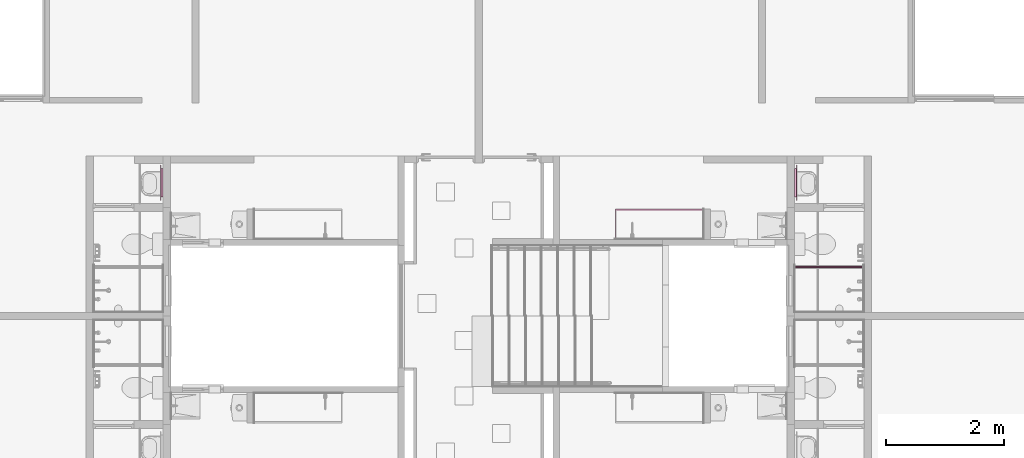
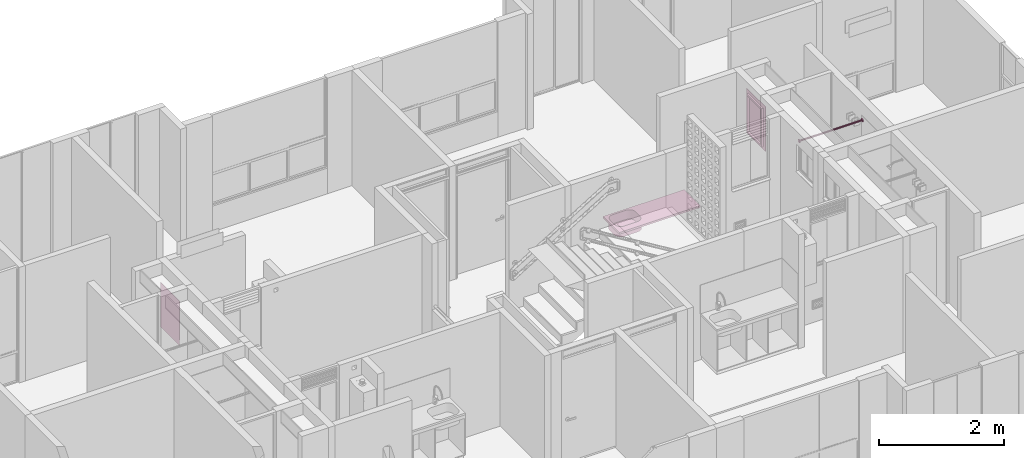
# One storey, part 44 of 48: 4 furniture elements.
"""IFC4 building model written with IfcOpenShell, lengths in metres."""

from ifc_helpers import new_model, entity, si_unit, converted_unit, derived_unit, direction, frame, origin, place, context, subcontext, project, spatial, arc, indexed_curve, outline, extrude, polygons, source, transform, mapped, material, constituent, constituent_set, type_object, type_shapes, element, save


model = new_model("IFC4")

# Units and contexts
model_context = context("Model", 3, precision=1e-05, world=origin(), true_north=direction((6.123031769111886e-17, 1.0)))
body_context = subcontext(model_context, "Body", "Model", "MODEL_VIEW")
ifc_project = project(units=[si_unit("LENGTHUNIT", "METRE"), si_unit("AREAUNIT", "SQUARE_METRE"), si_unit("VOLUMEUNIT", "CUBIC_METRE"), converted_unit("PLANEANGLEUNIT", "DEGREE", entity("IfcRatioMeasure", 0.017453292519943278), si_unit("PLANEANGLEUNIT", "RADIAN"), dimensions=[0, 0, 0, 0, 0, 0, 0]), si_unit("MASSUNIT", "GRAM", prefix="KILO"), derived_unit("MASSDENSITYUNIT", [(si_unit("MASSUNIT", "GRAM", prefix="KILO"), 1), (si_unit("LENGTHUNIT", "METRE"), -3)]), derived_unit("IONCONCENTRATIONUNIT", [(si_unit("MASSUNIT", "GRAM", prefix="KILO"), 1), (si_unit("LENGTHUNIT", "METRE"), -3)]), derived_unit("MOMENTOFINERTIAUNIT", [(si_unit("LENGTHUNIT", "METRE"), 4)]), si_unit("TIMEUNIT", "SECOND"), si_unit("FREQUENCYUNIT", "HERTZ"), si_unit("THERMODYNAMICTEMPERATUREUNIT", "DEGREE_CELSIUS"), derived_unit("THERMALTRANSMITTANCEUNIT", [(si_unit("MASSUNIT", "GRAM", prefix="KILO"), 1), (si_unit("THERMODYNAMICTEMPERATUREUNIT", "KELVIN"), -1), (si_unit("TIMEUNIT", "SECOND"), -3)]), derived_unit("THERMALCONDUCTANCEUNIT", [(si_unit("MASSUNIT", "GRAM", prefix="KILO"), 1), (si_unit("THERMODYNAMICTEMPERATUREUNIT", "KELVIN"), -1), (si_unit("TIMEUNIT", "SECOND"), -3), (si_unit("LENGTHUNIT", "METRE"), 1)]), derived_unit("VOLUMETRICFLOWRATEUNIT", [(si_unit("LENGTHUNIT", "METRE"), 3), (si_unit("TIMEUNIT", "SECOND"), -1)]), derived_unit("MASSFLOWRATEUNIT", [(si_unit("MASSUNIT", "GRAM", prefix="KILO"), 1), (si_unit("TIMEUNIT", "SECOND"), -1)]), derived_unit("ROTATIONALFREQUENCYUNIT", [(si_unit("TIMEUNIT", "SECOND"), -1)]), si_unit("ELECTRICCURRENTUNIT", "AMPERE"), si_unit("ELECTRICVOLTAGEUNIT", "VOLT"), si_unit("POWERUNIT", "WATT"), si_unit("FORCEUNIT", "NEWTON", prefix="KILO"), si_unit("ILLUMINANCEUNIT", "LUX"), si_unit("LUMINOUSFLUXUNIT", "LUMEN"), si_unit("LUMINOUSINTENSITYUNIT", "CANDELA"), derived_unit("USERDEFINED", [(si_unit("MASSUNIT", "GRAM", prefix="KILO"), -1), (si_unit("LENGTHUNIT", "METRE"), -2), (si_unit("TIMEUNIT", "SECOND"), 3), (si_unit("LUMINOUSFLUXUNIT", "LUMEN"), 1)]), derived_unit("USERDEFINED", [(si_unit("MASSUNIT", "GRAM", prefix="KILO"), 1), (si_unit("TIMEUNIT", "SECOND"), -3), (si_unit("LENGTHUNIT", "METRE"), 3), (si_unit("ELECTRICCURRENTUNIT", "AMPERE"), -2)]), derived_unit("SOUNDPOWERUNIT", [(si_unit("MASSUNIT", "GRAM", prefix="KILO"), 1), (si_unit("TIMEUNIT", "SECOND"), -3), (si_unit("LENGTHUNIT", "METRE"), 2)]), derived_unit("SOUNDPRESSUREUNIT", [(si_unit("MASSUNIT", "GRAM", prefix="KILO"), 1), (si_unit("LENGTHUNIT", "METRE"), -1), (si_unit("TIMEUNIT", "SECOND"), -2)]), derived_unit("LINEARVELOCITYUNIT", [(si_unit("LENGTHUNIT", "METRE"), 1), (si_unit("TIMEUNIT", "SECOND"), -1)]), si_unit("PRESSUREUNIT", "PASCAL"), derived_unit("USERDEFINED", [(si_unit("MASSUNIT", "GRAM", prefix="KILO"), 1), (si_unit("LENGTHUNIT", "METRE"), -2), (si_unit("TIMEUNIT", "SECOND"), -2)]), derived_unit("LINEARFORCEUNIT", [(si_unit("MASSUNIT", "GRAM", prefix="KILO"), 1), (si_unit("TIMEUNIT", "SECOND"), -2)]), derived_unit("PLANARFORCEUNIT", [(si_unit("MASSUNIT", "GRAM", prefix="KILO"), 1), (si_unit("LENGTHUNIT", "METRE"), -1), (si_unit("TIMEUNIT", "SECOND"), -2)]), derived_unit("SPECIFICHEATCAPACITYUNIT", [(si_unit("THERMODYNAMICTEMPERATUREUNIT", "KELVIN"), -1), (si_unit("LENGTHUNIT", "METRE"), 2), (si_unit("TIMEUNIT", "SECOND"), -2)]), derived_unit("HEATINGVALUEUNIT", [(si_unit("LENGTHUNIT", "METRE"), 2), (si_unit("TIMEUNIT", "SECOND"), -2)]), derived_unit("VAPORPERMEABILITYUNIT", [(si_unit("LENGTHUNIT", "METRE"), -1), (si_unit("TIMEUNIT", "SECOND"), 1)]), derived_unit("DYNAMICVISCOSITYUNIT", [(si_unit("MASSUNIT", "GRAM", prefix="KILO"), 1), (si_unit("TIMEUNIT", "SECOND"), -1), (si_unit("LENGTHUNIT", "METRE"), -1)]), derived_unit("THERMALEXPANSIONCOEFFICIENTUNIT", [(si_unit("THERMODYNAMICTEMPERATUREUNIT", "KELVIN"), -1)]), derived_unit("MODULUSOFELASTICITYUNIT", [(si_unit("MASSUNIT", "GRAM", prefix="KILO"), 1), (si_unit("LENGTHUNIT", "METRE"), -1), (si_unit("TIMEUNIT", "SECOND"), -2)]), derived_unit("ISOTHERMALMOISTURECAPACITYUNIT", [(si_unit("LENGTHUNIT", "METRE"), 3), (si_unit("MASSUNIT", "GRAM", prefix="KILO"), -1)]), derived_unit("MOISTUREDIFFUSIVITYUNIT", [(si_unit("TIMEUNIT", "SECOND"), -1), (si_unit("LENGTHUNIT", "METRE"), 2)])], contexts=[model_context])

# Site, building, storey
site_placement = place(None, origin())
site = spatial("IfcSite", under=ifc_project, at=site_placement, Name="Default", CompositionType="ELEMENT")
building_placement = place(site_placement, origin())
building = spatial("IfcBuilding", under=site, at=building_placement, CompositionType="ELEMENT")
storey_placement = place(building_placement, frame((0.0, 0.0, 9.40000000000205)))
storey = spatial("IfcBuildingStorey", under=building, at=storey_placement, Name="Nivel 5", CompositionType="ELEMENT", Elevation=9.40000000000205)

# Furniture
ifc_material_1 = material(Name="Aluminio", Category="Materials")
ifc_constituent_1 = constituent(ifc_material_1, Name="Aluminio", Category="Materials")
ifc_material_2 = material(Name="ESPEJO", Category="Materials")
ifc_constituent_2 = constituent(ifc_material_2, Name="ESPEJO", Category="Materials")
ifc_constituent_set_1 = constituent_set(constituents=[ifc_constituent_1, ifc_constituent_2])
ifc_constituent_3 = constituent(ifc_material_1, Name="Aluminio", Category="Materials")
ifc_constituent_4 = constituent(ifc_material_2, Name="ESPEJO", Category="Materials")
ifc_constituent_set_2 = constituent_set(constituents=[ifc_constituent_3, ifc_constituent_4])
furniture_type_1 = type_object("IfcFurnitureType", Name="E2050 - Espejo:E2050 - 0.60m x 0.87m - Espejo", AssemblyPlace="NOTDEFINED", PredefinedType="NOTDEFINED", material=ifc_constituent_set_2)
shared_shape_1 = source(origin(), body_context, "Body", "SweptSolid", [
    extrude(outline(indexed_curve([(-0.23999999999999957, -0.3749999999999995), (0.2399999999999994, -0.3749999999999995), (0.2399999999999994, 0.37499999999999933), (-0.23999999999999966, 0.3749999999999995), (-0.23999999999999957, -0.3749999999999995)], self_intersect=False), holes=[indexed_curve([(0.2149999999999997, -0.34999999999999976), (-0.21499999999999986, -0.34999999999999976), (-0.21499999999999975, 0.34999999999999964), (0.2149999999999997, 0.34999999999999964), (0.2149999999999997, -0.34999999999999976)], self_intersect=False)]), frame((0.12499999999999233, 0.062499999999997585, 1.485), z_axis=(0.0, 1.0, 0.0), x_axis=(1.0, 0.0, 0.0)), (0.0, 0.0, 1.0), 0.037500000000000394),
    extrude(outline(indexed_curve([(-0.00350000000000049, -0.30000000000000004), (0.00350000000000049, -0.30000000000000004), (0.00350000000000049, 0.30000000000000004), (-0.00350000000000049, 0.30000000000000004), (-0.00350000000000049, -0.30000000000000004)], self_intersect=False)), frame((0.1249999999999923, 0.10350000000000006, 1.05), z_axis=(0.0, 0.0, 1.0), x_axis=(0.0, 1.0, 0.0)), (0.0, 0.0, 1.0), 0.87),
])
type_shapes(furniture_type_1, [shared_shape_1])
furniture_1_placement = place(storey_placement, frame((14.620000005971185, -4.035000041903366, -0.020000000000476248), z_axis=(0.0, 0.0, 1.0), x_axis=(0.0, -1.0, 0.0)))
element("IfcFurniture", 1, at=furniture_1_placement, inside=storey, type_object=furniture_type_1, material=ifc_constituent_set_1, Name="E2050 - Espejo:E2050 - 0.60m x 0.87m - Espejo", ObjectType="E2050 - Espejo:E2050 - 0.60m x 0.87m - Espejo", PredefinedType="NOTDEFINED", context=body_context, shape_type="MappedRepresentation", body=[
    mapped(shared_shape_1, transform((0.0, 0.0, 0.0), scale=1.0)),
])
ifc_constituent_5 = constituent(ifc_material_1, Name="Aluminio", Category="Materials")
ifc_constituent_6 = constituent(ifc_material_2, Name="ESPEJO", Category="Materials")
ifc_constituent_set_3 = constituent_set(constituents=[ifc_constituent_5, ifc_constituent_6])
ifc_constituent_7 = constituent(ifc_material_1, Name="Aluminio", Category="Materials")
ifc_constituent_8 = constituent(ifc_material_2, Name="ESPEJO", Category="Materials")
ifc_constituent_set_4 = constituent_set(constituents=[ifc_constituent_7, ifc_constituent_8])
furniture_type_2 = type_object("IfcFurnitureType", Name="E2050 - Espejo:E2050 - 0.60m x 0.87m - Espejo", AssemblyPlace="NOTDEFINED", PredefinedType="NOTDEFINED", material=ifc_constituent_set_4)
shared_shape_2 = source(origin(), body_context, "Body", "SweptSolid", [
    extrude(outline(indexed_curve([(-0.3749999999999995, -0.2399999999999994), (0.37499999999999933, -0.23999999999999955), (0.3749999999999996, 0.2399999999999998), (-0.3749999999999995, 0.23999999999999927), (-0.3749999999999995, -0.2399999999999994)], self_intersect=False), holes=[indexed_curve([(-0.34999999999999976, 0.21499999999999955), (0.34999999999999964, 0.21499999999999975), (0.34999999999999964, -0.21499999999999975), (-0.34999999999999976, -0.21499999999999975), (-0.34999999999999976, 0.21499999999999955)], self_intersect=False)]), frame((0.12499999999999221, -0.09999999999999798, 1.485), z_axis=(0.0, 1.0, 0.0), x_axis=(0.0, 0.0, -1.0)), (0.0, 0.0, 1.0), 0.037500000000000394),
    extrude(outline(indexed_curve([(-0.30000000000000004, -0.00350000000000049), (0.30000000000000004, -0.00350000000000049), (0.30000000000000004, 0.00350000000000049), (-0.30000000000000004, 0.00350000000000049), (-0.30000000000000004, -0.00350000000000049)], self_intersect=False)), frame((0.1249999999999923, -0.10350000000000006, 1.05), z_axis=(0.0, 0.0, 1.0), x_axis=(-1.0, 0.0, 0.0)), (0.0, 0.0, 1.0), 0.87),
])
type_shapes(furniture_type_2, [shared_shape_2])
furniture_2_placement = place(storey_placement, frame((4.024999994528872, -4.035000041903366, -0.020000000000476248), z_axis=(0.0, 0.0, 1.0), x_axis=(0.0, -1.0, 0.0)))
element("IfcFurniture", 2, at=furniture_2_placement, inside=storey, type_object=furniture_type_2, material=ifc_constituent_set_3, Name="E2050 - Espejo:E2050 - 0.60m x 0.87m - Espejo", ObjectType="E2050 - Espejo:E2050 - 0.60m x 0.87m - Espejo", PredefinedType="NOTDEFINED", context=body_context, shape_type="MappedRepresentation", body=[
    mapped(shared_shape_2, transform((0.0, 0.0, 0.0), scale=1.0)),
])

# Space
space_1_placement = place(storey_placement, origin())
space_1 = spatial("IfcSpace", under=storey, at=space_1_placement, Name="276", CompositionType="ELEMENT", PredefinedType="SPACE")

# Furniture
ifc_material_3 = material(Name="<Unnamed>")
furniture_type_3 = type_object("IfcFurnitureType", Name="Barra baño:E2050- Barra Baño- Acero inoxidable", AssemblyPlace="NOTDEFINED", PredefinedType="NOTDEFINED", material=ifc_material_3)
shared_shape_3 = source(origin(), body_context, "Body", "SweptSolid", [
    extrude(outline(indexed_curve([(-0.025, 0.0), (-9.341026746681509e-17, -0.025), (0.025, 2.707167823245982e-16), (-1.316959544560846e-16, 0.025)], segments=[arc(1, 2, 3), arc(3, 4, 1)], self_intersect=False)), frame((-1.1599989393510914, 0.0, 1.8000000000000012), z_axis=(1.0, 0.0, 0.0), x_axis=(0.0, 1.0, 0.0)), (0.0, 0.0, 1.0), 0.005000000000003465),
    extrude(outline(indexed_curve([(-0.03, 0.0), (-1.1209232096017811e-16, -0.029999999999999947), (0.03, 2.707167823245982e-16), (-1.3138979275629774e-16, 0.029999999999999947)], segments=[arc(1, 2, 3), arc(3, 4, 1)], self_intersect=False)), frame((-1.164998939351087, 0.0, 1.8000000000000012), z_axis=(1.0, 0.0, 0.0), x_axis=(0.0, 1.0, 0.0)), (0.0, 0.0, 1.0), 0.0049999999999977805),
    extrude(outline(indexed_curve([(-0.0125, 0.0), (-4.6705133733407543e-17, -0.012499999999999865), (0.0125, 0.0), (7.654042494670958e-19, 0.012499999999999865)], segments=[arc(1, 2, 3), arc(3, 4, 1)], self_intersect=False)), frame((-1.1549989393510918, 0.0, 1.7999999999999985), z_axis=(1.0, 0.0, 0.0), x_axis=(0.0, 1.0, 0.0)), (0.0, 0.0, 1.0), 1.149998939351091),
    extrude(outline(indexed_curve([(-0.025, 0.0), (-2.2663703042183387e-16, -0.025), (0.025, 0.0), (1.5308084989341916e-18, 0.025)], segments=[arc(1, 2, 3), arc(3, 4, 1)], self_intersect=False)), frame((-0.005000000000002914, 0.0, 1.7999999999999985), z_axis=(1.0, 0.0, 0.0), x_axis=(0.0, 1.0, 0.0)), (0.0, 0.0, 1.0), 0.005000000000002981),
    extrude(outline(indexed_curve([(-0.03, 0.0), (-2.1867373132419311e-16, -0.029999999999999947), (0.03, 0.0), (1.8369701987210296e-18, 0.029999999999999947)], segments=[arc(1, 2, 3), arc(3, 4, 1)], self_intersect=False)), frame((0.0, 0.0, 1.7999999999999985), z_axis=(1.0, 0.0, 0.0), x_axis=(0.0, 1.0, 0.0)), (0.0, 0.0, 1.0), 0.00499999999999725),
])
type_shapes(furniture_type_3, [shared_shape_3])
furniture_3_placement = place(space_1_placement, frame((14.69250000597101, -5.590000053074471, 0.1299999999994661), z_axis=(0.0, 0.0, 1.0), x_axis=(-1.0, 0.0, 0.0)))
element("IfcFurniture", 3, at=furniture_3_placement, inside=space_1, type_object=furniture_type_3, material=ifc_material_3, Name="Barra baño:E2050- Barra Baño- Acero inoxidable", ObjectType="Barra baño:E2050- Barra Baño- Acero inoxidable", PredefinedType="NOTDEFINED", context=body_context, shape_type="MappedRepresentation", body=[
    mapped(shared_shape_3, transform((0.0, 0.0, 0.0), scale=1.0)),
])

# Space
space_2_placement = place(storey_placement, origin())
space_2 = spatial("IfcSpace", under=storey, at=space_2_placement, Name="279", CompositionType="ELEMENT", PredefinedType="SPACE")

# Furniture
ifc_material_4 = material(Name="Mesón cocina", Category="Materials")
furniture_type_4 = type_object("IfcFurnitureType", Name="E1060 - Meson Socoda Radiante - 1.50 X 0.52 - Acero inoxidable:E1060 - 1.50 x 0.52 - Meson de cocina, lavadero y estufa - Acero inoxidable", AssemblyPlace="NOTDEFINED", PredefinedType="NOTDEFINED", material=ifc_material_4)
shared_shape_4 = source(origin(), body_context, "Body", "Tessellation", [
    polygons([(0.7500000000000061, 0.2600000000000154, 0.03499999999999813), (-0.7499999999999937, 0.2600000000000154, 0.03499999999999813), (-0.7499999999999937, -0.2600000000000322, 0.03499999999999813), (0.7500000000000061, -0.2600000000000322, 0.03499999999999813), (0.23610399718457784, 0.03077661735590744, 0.03499999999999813), (0.23985215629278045, 0.05924671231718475, 0.03499999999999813), (0.2508412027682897, 0.08577661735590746, 0.03499999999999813), (0.2683222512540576, 0.10855836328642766, 0.03499999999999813), (0.2911039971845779, 0.1260394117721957, 0.03499999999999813), (0.31763390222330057, 0.13702845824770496, 0.03499999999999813), (0.3461039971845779, 0.1407766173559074, 0.03499999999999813), (0.593473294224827, 0.14077661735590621, 0.03499999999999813), (0.6219433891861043, 0.13702845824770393, 0.03499999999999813), (0.6484732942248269, 0.1260394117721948, 0.03499999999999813), (0.6712550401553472, 0.10855836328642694, 0.03499999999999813), (0.6887360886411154, 0.08577661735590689, 0.03499999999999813), (0.6997251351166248, 0.05924671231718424, 0.03499999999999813), (0.7034732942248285, 0.03077661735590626, 0.03499999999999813), (0.703473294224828, -0.11422338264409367, 0.03499999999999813), (0.6997251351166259, -0.14269347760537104, 0.03499999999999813), (0.6887360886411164, -0.1692233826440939, 0.03499999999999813), (0.6712550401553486, -0.1920051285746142, 0.03499999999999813), (0.6484732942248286, -0.20948617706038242, 0.03499999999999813), (0.6219433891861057, -0.22047522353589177, 0.03499999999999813), (0.5934732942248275, -0.22422338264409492, 0.03499999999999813), (0.3461039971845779, -0.22422338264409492, 0.03499999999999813), (0.31763390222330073, -0.22047522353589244, 0.03499999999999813), (0.2911039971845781, -0.20948617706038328, 0.03499999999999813), (0.2683222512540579, -0.1920051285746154, 0.03499999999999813), (0.2508412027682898, -0.1692233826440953, 0.03499999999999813), (0.23985215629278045, -0.14269347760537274, 0.03499999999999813), (0.23610399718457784, -0.11422338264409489, 0.03499999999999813), (0.7500000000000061, 0.2600000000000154, -1.8678232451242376e-15), (0.7500000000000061, -0.2600000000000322, -1.8678232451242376e-15), (-0.7499999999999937, -0.2600000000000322, -1.8678232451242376e-15), (-0.7499999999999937, 0.2600000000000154, -1.8678232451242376e-15), (0.5934732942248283, 0.1507766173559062, -1.8678232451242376e-15), (0.34610399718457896, 0.1507766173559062, -1.8678232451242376e-15), (0.31504571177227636, 0.1466877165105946, -1.8678232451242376e-15), (0.2861039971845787, 0.13469966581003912, -1.8678232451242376e-15), (0.2612511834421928, 0.11562943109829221, -1.8678232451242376e-15), (0.2421809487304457, 0.09077661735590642, -1.8678232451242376e-15), (0.23019289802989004, 0.06183490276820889, -1.8678232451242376e-15), (0.22610399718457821, 0.030776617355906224, -1.8678232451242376e-15), (0.22610399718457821, -0.11422338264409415, -1.8678232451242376e-15), (0.2301928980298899, -0.14528166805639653, -1.8678232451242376e-15), (0.24218094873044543, -0.17422338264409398, -1.8678232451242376e-15), (0.2612511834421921, -0.19907619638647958, -1.8678232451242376e-15), (0.2861039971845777, -0.2181464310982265, -1.8678232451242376e-15), (0.31504571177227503, -0.2301344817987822, -1.8678232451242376e-15), (0.3461039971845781, -0.23422338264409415, -1.8678232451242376e-15), (0.5934732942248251, -0.23422338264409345, -1.8678232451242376e-15), (0.6245315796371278, -0.2301344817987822, -1.8678232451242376e-15), (0.6534732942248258, -0.21814643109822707, -1.8678232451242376e-15), (0.6783261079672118, -0.19907619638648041, -1.8678232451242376e-15), (0.6973963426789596, -0.17422338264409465, -1.8678232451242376e-15), (0.7093843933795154, -0.14528166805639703, -1.8678232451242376e-15), (0.7134732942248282, -0.11422338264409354, -1.8678232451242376e-15), (0.7134732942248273, 0.030776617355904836, -1.8678232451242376e-15), (0.7093843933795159, 0.061834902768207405, -1.8678232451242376e-15), (0.6973963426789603, 0.09077661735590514, -1.8678232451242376e-15), (0.6783261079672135, 0.11562943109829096, -1.8678232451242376e-15), (0.6534732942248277, 0.13469966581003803, -1.8678232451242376e-15), (0.62453157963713, 0.1466877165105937, -1.8678232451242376e-15), (0.5934732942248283, 0.15077661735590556, -0.16000000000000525), (0.6245315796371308, 0.1466877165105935, -0.16000000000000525), (0.6534732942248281, 0.13469966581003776, -0.16000000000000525), (0.6783261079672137, 0.1156294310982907, -0.16000000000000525), (0.6973963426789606, 0.0907766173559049, -0.16000000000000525), (0.7093843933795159, 0.06183490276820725, -0.16000000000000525), (0.7134732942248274, 0.030776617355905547, -0.16000000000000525), (0.7134732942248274, -0.11422338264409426, -0.16000000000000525), (0.7093843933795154, -0.1452816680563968, -0.16000000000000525), (0.6973963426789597, -0.1742233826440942, -0.16000000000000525), (0.6783261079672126, -0.19907619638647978, -0.16000000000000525), (0.6534732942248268, -0.21814643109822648, -0.16000000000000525), (0.6245315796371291, -0.2301344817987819, -0.16000000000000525), (0.5934732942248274, -0.2342233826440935, -0.16000000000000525), (0.3461039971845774, -0.23422338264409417, -0.16000000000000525), (0.3150457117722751, -0.23013448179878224, -0.16000000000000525), (0.28610399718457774, -0.21814643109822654, -0.16000000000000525), (0.26125118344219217, -0.19907619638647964, -0.16000000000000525), (0.24218094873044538, -0.17422338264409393, -0.16000000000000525), (0.2301928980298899, -0.14528166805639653, -0.16000000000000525), (0.22610399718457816, -0.11422338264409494, -0.16000000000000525), (0.22610399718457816, 0.030776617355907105, -0.16000000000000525), (0.23019289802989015, 0.06183490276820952, -0.16000000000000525), (0.2421809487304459, 0.09077661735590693, -0.16000000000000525), (0.261251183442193, 0.11562943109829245, -0.16000000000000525), (0.2861039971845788, 0.13469966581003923, -0.16000000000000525), (0.31504571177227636, 0.1466877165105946, -0.16000000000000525), (0.3461039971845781, 0.1507766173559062, -0.16000000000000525), (0.3461039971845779, 0.14077661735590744, -0.14475899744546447), (0.31763390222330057, 0.13702845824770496, -0.14475899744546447), (0.2911039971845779, 0.1260394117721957, -0.14475899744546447), (0.2683222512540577, 0.10855836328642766, -0.14475899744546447), (0.25084120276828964, 0.08577661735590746, -0.14475899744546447), (0.2398521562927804, 0.05924671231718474, -0.14475899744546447), (0.23610399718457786, 0.03077661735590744, -0.14475899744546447), (0.23610399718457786, -0.11422338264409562, -0.14475899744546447), (0.23985215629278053, -0.14269347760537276, -0.14475899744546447), (0.25084120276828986, -0.16922338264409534, -0.14475899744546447), (0.2683222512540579, -0.19200512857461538, -0.14475899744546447), (0.2911039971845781, -0.20948617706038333, -0.14475899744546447), (0.31763390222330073, -0.22047522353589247, -0.14475899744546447), (0.3461039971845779, -0.2242233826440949, -0.14475899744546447), (0.5934732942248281, -0.22422338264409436, -0.14475899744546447), (0.6219433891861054, -0.22047522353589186, -0.14475899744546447), (0.6484732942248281, -0.20948617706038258, -0.14475899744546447), (0.6712550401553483, -0.19200512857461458, -0.14475899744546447), (0.6887360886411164, -0.16922338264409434, -0.14475899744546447), (0.6997251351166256, -0.14269347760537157, -0.14475899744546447), (0.7034732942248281, -0.11422338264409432, -0.14475899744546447), (0.7034732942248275, 0.030776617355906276, -0.14475899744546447), (0.699725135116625, 0.05924671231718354, -0.14475899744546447), (0.6887360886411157, 0.08577661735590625, -0.14475899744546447), (0.6712550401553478, 0.10855836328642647, -0.14475899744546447), (0.6484732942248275, 0.1260394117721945, -0.14475899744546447), (0.6219433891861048, 0.13702845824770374, -0.14475899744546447), (0.5934732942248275, 0.14077661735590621, -0.14475899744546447)], [[[1, 2, 3, 4], [17, 18, 19, 20, 21, 22, 23, 24, 25, 26, 27, 28, 29, 30, 31, 32, 5, 6, 7, 8, 9, 10, 11, 12, 13, 14, 15, 16]], [[118, 119, 120, 93, 94, 95, 96, 97, 98, 99, 100, 101, 102, 103, 104, 105, 106, 107, 108, 109, 110, 111, 112, 113, 114, 115, 116, 117]], [[36, 33, 34, 35], [43, 44, 45, 46, 47, 48, 49, 50, 51, 52, 53, 54, 55, 56, 57, 58, 59, 60, 61, 62, 63, 64, 37, 38, 39, 40, 41, 42]], [[89, 90, 91, 92, 65, 66, 67, 68, 69, 70, 71, 72, 73, 74, 75, 76, 77, 78, 79, 80, 81, 82, 83, 84, 85, 86, 87, 88]], [[2, 1, 33, 36]], [[38, 37, 65, 92]], [[106, 26, 25, 107]], [[3, 2, 36, 35]], [[45, 44, 86, 85]], [[114, 113, 19, 18]], [[4, 3, 35, 34]], [[52, 51, 79, 78]], [[120, 12, 11, 93]], [[1, 4, 34, 33]], [[59, 58, 72, 71]], [[99, 5, 32, 100]], [[39, 91, 90, 40]], [[109, 108, 24, 23]], [[40, 90, 89, 41]], [[110, 109, 23, 22]], [[92, 91, 39, 38]], [[25, 24, 108, 107]], [[42, 88, 87, 43]], [[112, 111, 21, 20]], [[43, 87, 86, 44]], [[113, 112, 20, 19]], [[41, 89, 88, 42]], [[21, 111, 110, 22]], [[46, 84, 83, 47]], [[17, 16, 116, 115]], [[47, 83, 82, 48]], [[16, 15, 117, 116]], [[85, 84, 46, 45]], [[115, 114, 18, 17]], [[49, 81, 80, 50]], [[119, 118, 14, 13]], [[50, 80, 79, 51]], [[120, 119, 13, 12]], [[48, 82, 81, 49]], [[14, 118, 117, 15]], [[53, 77, 76, 54]], [[95, 94, 10, 9]], [[54, 76, 75, 55]], [[96, 95, 9, 8]], [[78, 77, 53, 52]], [[11, 10, 94, 93]], [[56, 74, 73, 57]], [[98, 97, 7, 6]], [[57, 73, 72, 58]], [[99, 98, 6, 5]], [[55, 75, 74, 56]], [[7, 97, 96, 8]], [[60, 70, 69, 61]], [[102, 101, 31, 30]], [[61, 69, 68, 62]], [[103, 102, 30, 29]], [[71, 70, 60, 59]], [[32, 31, 101, 100]], [[63, 67, 66, 64]], [[105, 104, 28, 27]], [[64, 66, 65, 37]], [[106, 105, 27, 26]], [[62, 68, 67, 63]], [[28, 104, 103, 29]]], closed=True),
])
type_shapes(furniture_type_4, [shared_shape_4])
furniture_4_placement = place(space_2_placement, frame((12.392500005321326, -4.86500002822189, 0.8949999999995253), z_axis=(0.0, 0.0, 1.0), x_axis=(-1.0, 0.0, 0.0)))
element("IfcFurniture", 4, at=furniture_4_placement, inside=space_2, type_object=furniture_type_4, material=ifc_material_4, Name="E1060 - Meson Socoda Radiante - 1.50 X 0.52 - Acero inoxidable:E1060 - 1.50 x 0.52 - Meson de cocina, lavadero y estufa - Acero inoxidable", ObjectType="E1060 - Meson Socoda Radiante - 1.50 X 0.52 - Acero inoxidable:E1060 - 1.50 x 0.52 - Meson de cocina, lavadero y estufa - Acero inoxidable", PredefinedType="NOTDEFINED", context=body_context, shape_type="MappedRepresentation", body=[
    mapped(shared_shape_4, transform((0.0, 0.0, 0.0), scale=1.0)),
])

save(model, "model.ifc")
